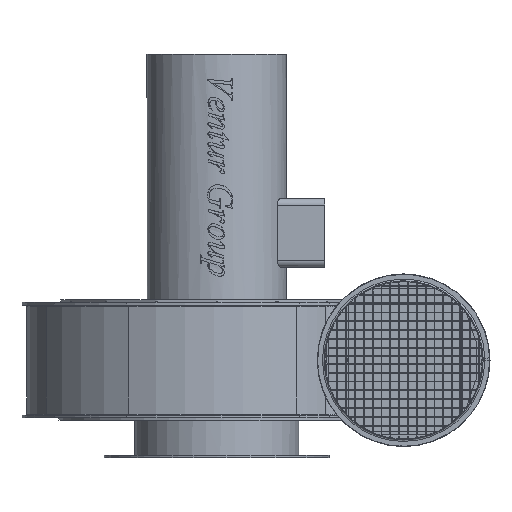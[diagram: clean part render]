
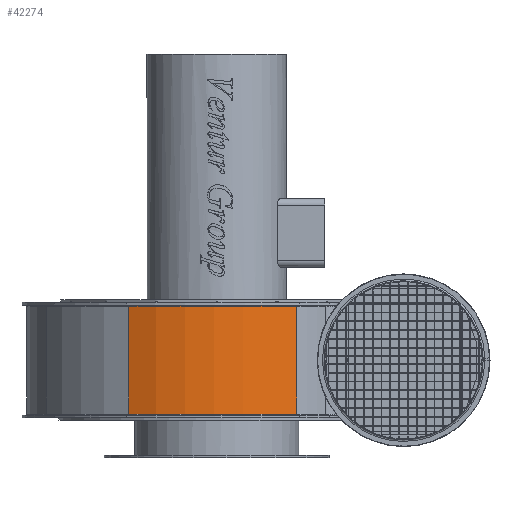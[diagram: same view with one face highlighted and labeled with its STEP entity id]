
A CAD part, front view. The second image highlights one B-rep face of the part: STEP entity #42274.
In plain terms, the highlighted cylindrical face has radius 209.217 mm (diameter 418.434 mm), a partial arc.
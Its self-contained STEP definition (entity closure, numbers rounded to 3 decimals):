
#6157=LINE('',#75615,#10537);
#6158=LINE('',#75619,#10538);
#10537=VECTOR('',#53216,134.);
#10538=VECTOR('',#53221,134.);
#15407=FACE_OUTER_BOUND('',#18048,.T.);
#18048=EDGE_LOOP('',(#39844,#39845,#39846,#39847));
#18722=CIRCLE('',#44471,209.217);
#18726=CIRCLE('',#44480,209.217);
#22579=VERTEX_POINT('',#75546);
#22594=VERTEX_POINT('',#75592);
#22599=VERTEX_POINT('',#75614);
#22600=VERTEX_POINT('',#75618);
#28367=EDGE_CURVE('',#22594,#22579,#18722,.T.);
#28375=EDGE_CURVE('',#22579,#22599,#6157,.T.);
#28377=EDGE_CURVE('',#22594,#22600,#6158,.T.);
#28378=EDGE_CURVE('',#22599,#22600,#18726,.T.);
#39844=ORIENTED_EDGE('',*,*,#28367,.F.);
#39845=ORIENTED_EDGE('',*,*,#28377,.T.);
#39846=ORIENTED_EDGE('',*,*,#28378,.F.);
#39847=ORIENTED_EDGE('',*,*,#28375,.F.);
#40299=CYLINDRICAL_SURFACE('',#44479,209.217);
#42274=ADVANCED_FACE('',(#15407),#40299,.T.);
#44471=AXIS2_PLACEMENT_3D('',#75599,#53197,#53198);
#44479=AXIS2_PLACEMENT_3D('',#75617,#53219,#53220);
#44480=AXIS2_PLACEMENT_3D('',#75620,#53222,#53223);
#53197=DIRECTION('center_axis',(0.,0.,
1.));
#53198=DIRECTION('ref_axis',(0.07,-0.998,0.));
#53216=DIRECTION('',(0.,0.,-1.));
#53219=DIRECTION('center_axis',(0.,0.,
-1.));
#53220=DIRECTION('ref_axis',(0.56,-0.828,0.));
#53221=DIRECTION('',(0.,0.,-1.));
#53222=DIRECTION('center_axis',(0.,0.,
-1.));
#53223=DIRECTION('ref_axis',(0.07,-0.998,0.));
#75546=CARTESIAN_POINT('',(854.163,1189.78,138.5));
#75592=CARTESIAN_POINT('',(645.034,1175.087,138.5));
#75599=CARTESIAN_POINT('Origin',(736.908,1363.052,138.5));
#75614=CARTESIAN_POINT('',(854.163,1189.78,4.5));
#75615=CARTESIAN_POINT('',(854.163,1189.78,141.5));
#75617=CARTESIAN_POINT('Origin',(736.908,1363.052,141.5));
#75618=CARTESIAN_POINT('',(645.034,1175.087,4.5));
#75619=CARTESIAN_POINT('',(645.034,1175.087,141.5));
#75620=CARTESIAN_POINT('Origin',(736.908,1363.052,4.5));
